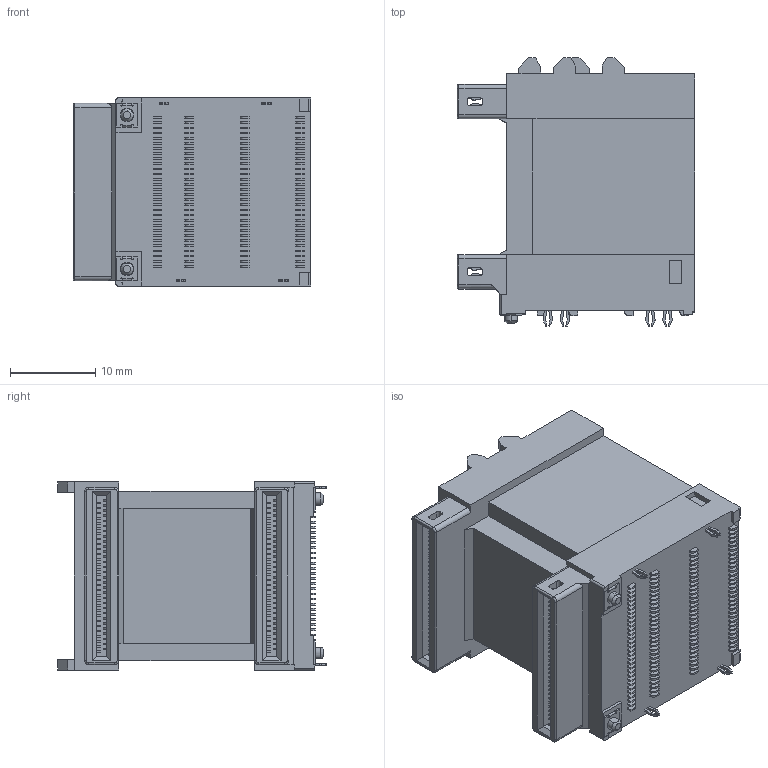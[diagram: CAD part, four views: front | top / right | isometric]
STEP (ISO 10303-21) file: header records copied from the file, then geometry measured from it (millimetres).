
FILE_DESCRIPTION((''),'2;1');
FILE_NAME('O224G_PEP120-7530-00X-1H_CUSTOM','2026-06-22T10:48:27',('39002408'),(''),'CREO PARAMETRIC BY PTC INC, 2019471','CREO PARAMETRIC BY PTC INC, 2019471','');
FILE_SCHEMA(('CONFIG_CONTROL_DESIGN'));
Products named in the file (1): O224G_PEP120-7530-00X-1H_CUSTOM
Bounding box: 27.8 x 31.43 x 22 mm (x, y, z)
Volume: 12893.5 mm3; surface area: 5896.3 mm2
Topology: 1 solids, 13 shells, 4108 faces, 11445 edges, 7620 vertices
Faces by surface type: plane 2368, cylinder 1728, torus 8, cone 4
Entity records: 133391 total; most frequent: CARTESIAN_POINT 25223, ORIENTED_EDGE 22890, DIRECTION 22193, EDGE_CURVE 11445, VECTOR 7965, LINE 7965, VERTEX_POINT 7620, AXIS2_PLACEMENT_3D 7114
